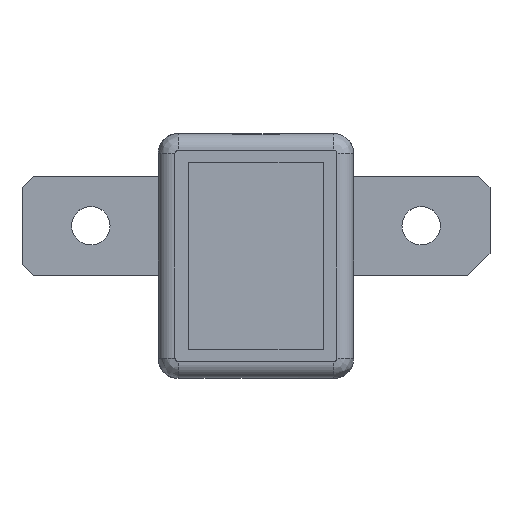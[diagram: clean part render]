
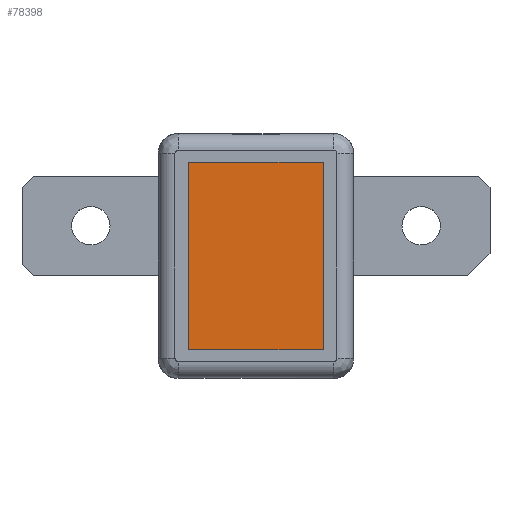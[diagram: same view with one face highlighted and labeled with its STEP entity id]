
A CAD part, top view. The second image highlights one B-rep face of the part: STEP entity #78398.
In plain terms, the highlighted planar face has unit normal (0, 0, 1) as drawn and (0, 0, -1) by its records, which use the part's own axes.
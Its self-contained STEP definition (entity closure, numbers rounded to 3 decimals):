
#6485=FACE_OUTER_BOUND('',#10744,.T.);
#10744=EDGE_LOOP('',(#53114,#53115,#53116,#53117));
#15421=LINE('',#111989,#24747);
#15425=LINE('',#111996,#24751);
#15428=LINE('',#112002,#24754);
#15430=LINE('',#112005,#24756);
#24747=VECTOR('',#89493,24.4);
#24751=VECTOR('',#89499,34.);
#24754=VECTOR('',#89504,24.4);
#24756=VECTOR('',#89508,34.);
#34035=VERTEX_POINT('',#111986);
#34036=VERTEX_POINT('',#111988);
#34038=VERTEX_POINT('',#111994);
#34040=VERTEX_POINT('',#112000);
#41432=EDGE_CURVE('',#34035,#34036,#15421,.T.);
#41436=EDGE_CURVE('',#34038,#34035,#15425,.T.);
#41439=EDGE_CURVE('',#34040,#34038,#15428,.T.);
#41441=EDGE_CURVE('',#34036,#34040,#15430,.T.);
#53114=ORIENTED_EDGE('',*,*,#41441,.F.);
#53115=ORIENTED_EDGE('',*,*,#41432,.F.);
#53116=ORIENTED_EDGE('',*,*,#41436,.F.);
#53117=ORIENTED_EDGE('',*,*,#41439,.F.);
#75119=PLANE('',#82769);
#78398=ADVANCED_FACE('',(#6485),#75119,.F.);
#82769=AXIS2_PLACEMENT_3D('',#112006,#89509,#89510);
#89493=DIRECTION('',(0.,-1.,0.));
#89499=DIRECTION('',(-1.,0.,0.));
#89504=DIRECTION('',(0.,1.,0.));
#89508=DIRECTION('',(1.,0.,0.));
#89509=DIRECTION('center_axis',(0.,0.,1.));
#89510=DIRECTION('ref_axis',(1.,0.,0.));
#111986=CARTESIAN_POINT('',(-17.,12.2,0.1));
#111988=CARTESIAN_POINT('',(-17.,-12.2,0.1));
#111989=CARTESIAN_POINT('',(-17.,-12.2,0.1));
#111994=CARTESIAN_POINT('',(17.,12.2,0.1));
#111996=CARTESIAN_POINT('',(-17.,12.2,0.1));
#112000=CARTESIAN_POINT('',(17.,-12.2,0.1));
#112002=CARTESIAN_POINT('',(17.,12.2,0.1));
#112005=CARTESIAN_POINT('',(17.,-12.2,0.1));
#112006=CARTESIAN_POINT('Origin',(0.,0.,
0.1));
